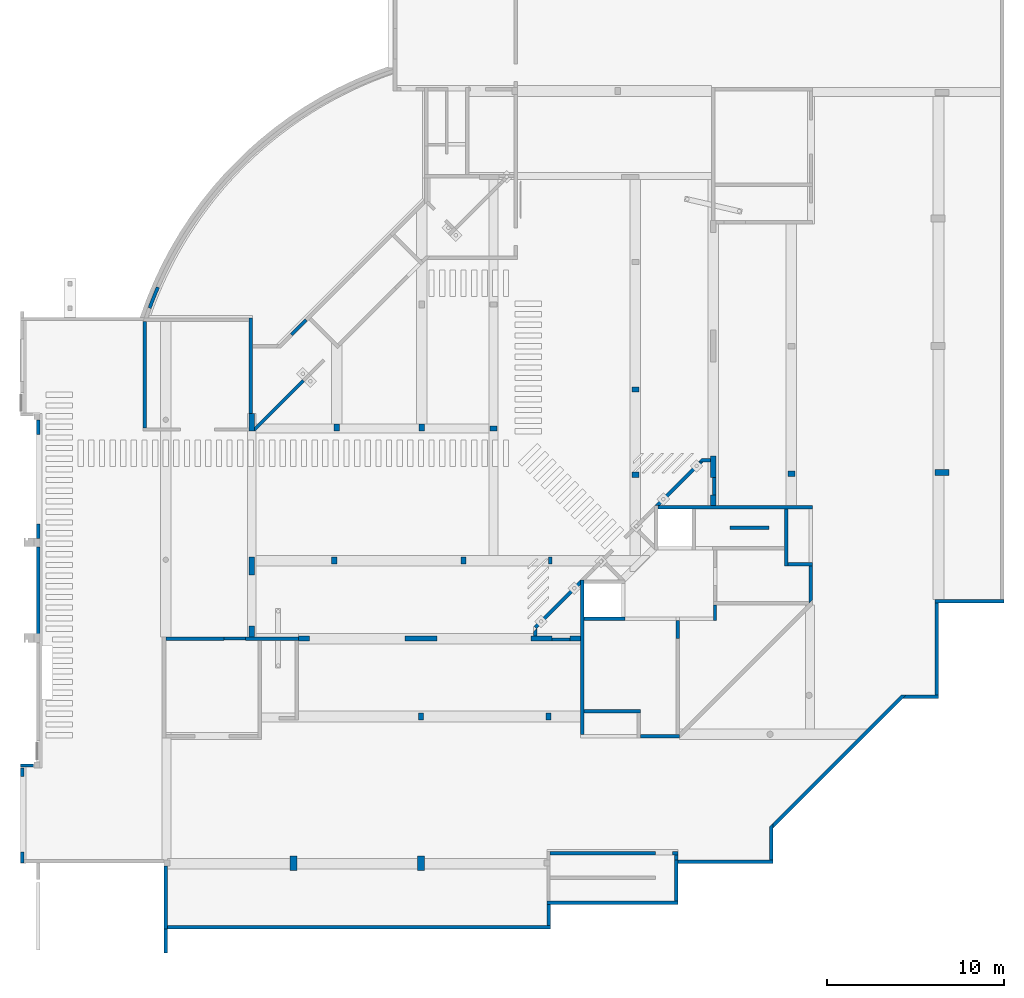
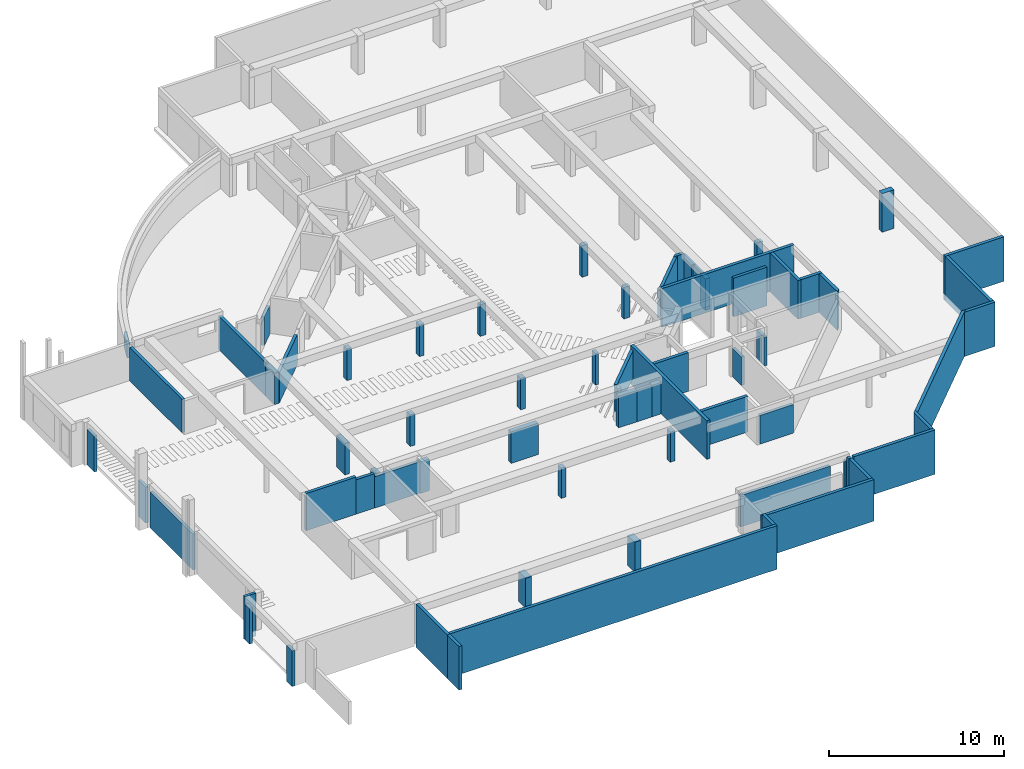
# One storey, part 4 of 12: 69 walls.
"""IFC4X3_ADD2 building model written with IfcOpenShell, lengths in millimetres."""

from ifc_helpers import new_model, si_unit, point, direction, frame, frame_2d, origin_with_axes, origin_2d_with_axis, place, context, subcontext, project, spatial, polyline, circle_curve, trimmed, segment, composite_curve, rectangle, outline, extrude, material, type_object, element, save


model = new_model("IFC4X3_ADD2")

# Units and contexts
model_context = context("Model", 3, precision=1e-05, world=origin_with_axes(), true_north=direction((0.0, 1.0)))
body_context = subcontext(model_context, "Body", "Model", "MODEL_VIEW")
ifc_project = project(units=[si_unit("LENGTHUNIT", "METRE", prefix="MILLI"), si_unit("AREAUNIT", "SQUARE_METRE"), si_unit("VOLUMEUNIT", "CUBIC_METRE"), si_unit("PLANEANGLEUNIT", "RADIAN"), si_unit("TIMEUNIT", "SECOND"), si_unit("MASSUNIT", "GRAM")], contexts=[model_context])

# Site, building, storey
site_placement = place(None, origin_with_axes())
site = spatial("IfcSite", under=ifc_project, at=site_placement, Name="Site", CompositionType="ELEMENT")
building_placement = place(site_placement, origin_with_axes())
building = spatial("IfcBuilding", under=site, at=building_placement, Name="IFC Building Story")
storey_placement = place(building_placement, frame((0.0, 0.0, -5940.0), z_axis=(0.0, 0.0, 1.0), x_axis=(1.0, 0.0, 0.0)))
storey = spatial("IfcBuildingStorey", under=building, at=storey_placement, Name="K20", Elevation=-5940.0)

# Walls
ifc_material_1 = material(Name="BB_Beton_Bestaand")
wall_type_1 = type_object("IfcWallType", Name="BB_Beton_Bestaand 200", PredefinedType="NOTDEFINED", material=ifc_material_1)
wall_1_placement = place(storey_placement, origin_with_axes())
element("IfcWall", 1, at=wall_1_placement, inside=storey, type_object=wall_type_1, Name="Basic Wall:BB_XX_Wand uit beton, 200 mm", ObjectType="Basic Wall:BB_XX_Wand uit beton, 200 mm", PredefinedType="SOLIDWALL", context=body_context, shape_type="SweptSolid", body=[
    extrude(rectangle(XDim=490.0000000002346, YDim=200.0000000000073, at=frame_2d((0.0, 0.0), x_axis=(0.0, 1.0))), frame((-51595.0, 5060.000000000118, -400.0), z_axis=(0.0, 0.0, 1.0), x_axis=(1.0, 0.0, 0.0)), (0.0, 0.0, 1.0), 2500.0),
])
wall_2_placement = place(storey_placement, origin_with_axes())
element("IfcWall", 2, at=wall_2_placement, inside=storey, type_object=wall_type_1, Name="Basic Wall:BB_XX_Wand uit beton, 200 mm", ObjectType="Basic Wall:BB_XX_Wand uit beton, 200 mm", PredefinedType="SOLIDWALL", context=body_context, shape_type="SweptSolid", body=[
    extrude(rectangle(XDim=3555.00000000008, YDim=200.0, at=frame_2d((0.0, 0.0), x_axis=(0.0, 1.0))), frame((-43495.0, -2022.49999999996, -400.0), z_axis=(0.0, 0.0, 1.0), x_axis=(1.0, 0.0, 0.0)), (0.0, 0.0, 1.0), 3050.0),
])
wall_3_placement = place(storey_placement, origin_with_axes())
element("IfcWall", 3, at=wall_3_placement, inside=storey, type_object=wall_type_1, Name="Basic Wall:BB_XX_Wand uit beton, 200 mm", ObjectType="Basic Wall:BB_XX_Wand uit beton, 200 mm", PredefinedType="SOLIDWALL", context=body_context, shape_type="SweptSolid", body=[
    extrude(rectangle(XDim=21595.0000000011, YDim=200.0, at=origin_2d_with_axis()), frame((-32597.50000000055, -3700.0, -400.0), z_axis=(0.0, 0.0, 1.0), x_axis=(1.0, 0.0, 0.0)), (0.0, 0.0, 1.0), 3050.0),
])
wall_4_placement = place(storey_placement, origin_with_axes())
element("IfcWall", 4, at=wall_4_placement, inside=storey, type_object=wall_type_1, Name="Basic Wall:BB_XX_Wand uit beton, 200 mm", ObjectType="Basic Wall:BB_XX_Wand uit beton, 200 mm", PredefinedType="SOLIDWALL", context=body_context, shape_type="SweptSolid", body=[
    extrude(rectangle(XDim=7399.999999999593, YDim=200.0, at=origin_2d_with_axis()), frame((-18299.9999999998, -2305.0, -400.0), z_axis=(0.0, 0.0, 1.0), x_axis=(1.0, 0.0, 0.0)), (0.0, 0.0, 1.0), 2900.0),
])
wall_5_placement = place(storey_placement, origin_with_axes())
element("IfcWall", 5, at=wall_5_placement, inside=storey, type_object=wall_type_1, Name="Basic Wall:BB_XX_Wand uit beton, 200 mm", ObjectType="Basic Wall:BB_XX_Wand uit beton, 200 mm", PredefinedType="SOLIDWALL", context=body_context, shape_type="SweptSolid", body=[
    extrude(rectangle(XDim=1195.00000000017, YDim=200.0, at=frame_2d((0.0, 0.0), x_axis=(0.0, 1.0))), frame((-21900.0, -3002.500000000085, -400.0), z_axis=(0.0, 0.0, 1.0), x_axis=(1.0, 0.0, 0.0)), (0.0, 0.0, 1.0), 3050.0),
])
wall_6_placement = place(storey_placement, origin_with_axes())
element("IfcWall", 6, at=wall_6_placement, inside=storey, type_object=wall_type_1, Name="Basic Wall:BB_XX_Wand uit beton, 200 mm", ObjectType="Basic Wall:BB_XX_Wand uit beton, 200 mm", PredefinedType="SOLIDWALL", context=body_context, shape_type="SweptSolid", body=[
    extrude(rectangle(XDim=5364.99999999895, YDim=200.0, at=origin_2d_with_axis()), frame((-11917.49999999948, -5.0, -400.0), z_axis=(0.0, 0.0, 1.0), x_axis=(1.0, 0.0, 0.0)), (0.0, 0.0, 1.0), 3100.0),
])
wall_7_placement = place(storey_placement, origin_with_axes())
element("IfcWall", 7, at=wall_7_placement, inside=storey, type_object=wall_type_1, Name="Basic Wall:BB_XX_Wand uit beton, 200 mm", ObjectType="Basic Wall:BB_XX_Wand uit beton, 200 mm", PredefinedType="SOLIDWALL", context=body_context, shape_type="SweptSolid", body=[
    extrude(rectangle(XDim=2299.99999999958, YDim=200.0000000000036, at=frame_2d((0.0, 0.0), x_axis=(0.0, 1.0))), frame((-14700.0, -1054.99999999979, -400.0), z_axis=(0.0, 0.0, 1.0), x_axis=(1.0, 0.0, 0.0)), (0.0, 0.0, 1.0), 2900.0),
])
wall_8_placement = place(storey_placement, origin_with_axes())
element("IfcWall", 8, at=wall_8_placement, inside=storey, type_object=wall_type_1, Name="Basic Wall:BB_XX_Wand uit beton, 200 mm", ObjectType="Basic Wall:BB_XX_Wand uit beton, 200 mm", PredefinedType="SOLIDWALL", context=body_context, shape_type="SweptSolid", body=[
    extrude(rectangle(XDim=300.0000000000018, YDim=200.0, at=origin_2d_with_axis()), frame((-14750.0, 495.0, 0.0), z_axis=(0.0, 0.0, 1.0), x_axis=(1.0, 0.0, 0.0)), (0.0, 0.0, 1.0), 2190.0),
])
wall_9_placement = place(storey_placement, origin_with_axes())
element("IfcWall", 9, at=wall_9_placement, inside=storey, type_object=wall_type_1, Name="Basic Wall:BB_XX_Wand uit beton, 200 mm", ObjectType="Basic Wall:BB_XX_Wand uit beton, 200 mm", PredefinedType="SOLIDWALL", context=body_context, shape_type="SweptSolid", body=[
    extrude(outline(polyline([(-865.4942314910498, 100.0), (965.4942314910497, 100.0), (965.4942314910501, -100.0), (-1065.49423149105, -100.0), (-865.4942314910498, 100.0)])), frame((-860.4942314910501, 9315.0, -400.0), z_axis=(0.0, 0.0, 1.0), x_axis=(1.0, 0.0, 0.0)), (0.0, 0.0, 1.0), 3100.0),
])
wall_10_placement = place(storey_placement, origin_with_axes())
element("IfcWall", 10, at=wall_10_placement, inside=storey, type_object=wall_type_1, Name="Basic Wall:BB_XX_Wand uit beton, 200 mm", ObjectType="Basic Wall:BB_XX_Wand uit beton, 200 mm", PredefinedType="SOLIDWALL", context=body_context, shape_type="SweptSolid", body=[
    extrude(outline(polyline([(-100.0, -996.9155877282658), (-100.0, 896.9155877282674), (100.0, 1096.915587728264), (100.0000000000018, -996.9155877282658), (-100.0, -996.9155877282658)])), frame((-9335.0, 1091.915587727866, -400.0), z_axis=(0.0, 0.0, 1.0), x_axis=(1.0, 0.0, 0.0)), (0.0, 0.0, 1.0), 3100.0),
])
wall_11_placement = place(storey_placement, origin_with_axes())
element("IfcWall", 11, at=wall_11_placement, inside=storey, type_object=wall_type_1, Name="Basic Wall:BB_XX_Wand uit beton, 200 mm", ObjectType="Basic Wall:BB_XX_Wand uit beton, 200 mm", PredefinedType="SOLIDWALL", context=body_context, shape_type="SweptSolid", body=[
    extrude(outline(polyline([(-3683.795090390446, -3542.37373415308), (3542.373734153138, 3683.79509039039), (3825.216446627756, 3683.795090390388), (-3683.795090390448, -3825.216446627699), (-3683.795090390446, -3542.37373415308)])), frame((-5551.204909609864, 5731.204909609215, -400.0), z_axis=(0.0, 0.0, 1.0), x_axis=(1.0, 0.0, 0.0)), (0.0, 0.0, 1.0), 3100.0),
])
wall_12_placement = place(storey_placement, origin_with_axes())
element("IfcWall", 12, at=wall_12_placement, inside=storey, type_object=wall_type_1, Name="Basic Wall:BB_XX_Wand uit beton, 200 mm", ObjectType="Basic Wall:BB_XX_Wand uit beton, 200 mm", PredefinedType="SOLIDWALL", context=body_context, shape_type="SweptSolid", body=[
    extrude(rectangle(XDim=3894.82543599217, YDim=199.9999999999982, at=origin_2d_with_axis()), frame((1852.412717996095, 14695.0, -400.0), z_axis=(0.0, 0.0, 1.0), x_axis=(1.0, 0.0, 0.0)), (0.0, 0.0, 1.0), 3100.0),
])
wall_13_placement = place(storey_placement, origin_with_axes())
element("IfcWall", 13, at=wall_13_placement, inside=storey, type_object=wall_type_1, Name="Basic Wall:BB_XX_Wand uit beton, 200 mm", ObjectType="Basic Wall:BB_XX_Wand uit beton, 200 mm", PredefinedType="SOLIDWALL", context=body_context, shape_type="SweptSolid", body=[
    extrude(rectangle(XDim=5180.000000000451, YDim=200.0, at=frame_2d((0.0, 0.0), x_axis=(0.0, 1.0))), frame((5.0, 12004.99999999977, -400.0), z_axis=(0.0, 0.0, 1.0), x_axis=(1.0, 0.0, 0.0)), (0.0, 0.0, 1.0), 3100.0),
])
wall_14_placement = place(storey_placement, origin_with_axes())
element("IfcWall", 14, at=wall_14_placement, inside=storey, type_object=wall_type_1, Name="Basic Wall:BB_XX_Wand uit beton, 200 mm", ObjectType="Basic Wall:BB_XX_Wand uit beton, 200 mm", PredefinedType="SOLIDWALL", context=body_context, shape_type="SweptSolid", body=[
    extrude(rectangle(XDim=5394.999999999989, YDim=200.0, at=frame_2d((0.0, 0.0), x_axis=(0.0, 1.0))), frame((-38700.0, 27997.5, 0.0), z_axis=(0.0, 0.0, 1.0), x_axis=(1.0, 0.0, 0.0)), (0.0, 0.0, 1.0), 2340.0),
])
wall_15_placement = place(storey_placement, origin_with_axes())
element("IfcWall", 15, at=wall_15_placement, inside=storey, type_object=wall_type_1, Name="Basic Wall:BB_XX_Wand uit beton, 200 mm", ObjectType="Basic Wall:BB_XX_Wand uit beton, 200 mm", PredefinedType="SOLIDWALL", context=body_context, shape_type="SweptSolid", body=[
    extrude(rectangle(XDim=400.0, YDim=200.0, at=frame_2d((0.0, 0.0), x_axis=(0.0, 1.0))), frame((-21800.0, 17000.0, 0.0), z_axis=(0.0, 0.0, 1.0), x_axis=(1.0, 0.0, 0.0)), (0.0, 0.0, 1.0), 2200.0),
])
wall_16_placement = place(storey_placement, origin_with_axes())
element("IfcWall", 16, at=wall_16_placement, inside=storey, type_object=wall_type_1, Name="Basic Wall:BB_XX_Wand uit beton, 200 mm", ObjectType="Basic Wall:BB_XX_Wand uit beton, 200 mm", PredefinedType="SOLIDWALL", context=body_context, shape_type="SweptSolid", body=[
    extrude(rectangle(XDim=8714.99999999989, YDim=200.0, at=frame_2d((0.0, 0.0), x_axis=(0.0, 1.0))), frame((-20000.0, 11557.49999999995, 0.0), z_axis=(0.0, 0.0, 1.0), x_axis=(1.0, 0.0, 0.0)), (0.0, 0.0, 1.0), 2700.0),
])
wall_17_placement = place(storey_placement, origin_with_axes())
element("IfcWall", 17, at=wall_17_placement, inside=storey, type_object=wall_type_1, Name="Basic Wall:BB_XX_Wand uit beton, 200 mm", ObjectType="Basic Wall:BB_XX_Wand uit beton, 200 mm", PredefinedType="SOLIDWALL", context=body_context, shape_type="SweptSolid", body=[
    extrude(rectangle(XDim=2299.999999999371, YDim=199.9999999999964, at=origin_2d_with_axis()), frame((-18750.00000000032, 13715.0, 0.0), z_axis=(0.0, 0.0, 1.0), x_axis=(1.0, 0.0, 0.0)), (0.0, 0.0, 1.0), 2700.0),
])
wall_18_placement = place(storey_placement, origin_with_axes())
element("IfcWall", 18, at=wall_18_placement, inside=storey, type_object=wall_type_1, Name="Basic Wall:BB_XX_Wand uit beton, 200 mm", ObjectType="Basic Wall:BB_XX_Wand uit beton, 200 mm", PredefinedType="SOLIDWALL", context=body_context, shape_type="SweptSolid", body=[
    extrude(rectangle(XDim=3000.000000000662, YDim=200.0000000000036, at=origin_2d_with_axis()), frame((-37499.99999999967, 12600.0014785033, 0.0), z_axis=(0.0, 0.0, 1.0), x_axis=(1.0, 0.0, 0.0)), (0.0, 0.0, 1.0), 2200.0),
])
wall_19_placement = place(storey_placement, origin_with_axes())
element("IfcWall", 19, at=wall_19_placement, inside=storey, type_object=wall_type_1, Name="Basic Wall:BB_XX_Wand uit beton, 200 mm", ObjectType="Basic Wall:BB_XX_Wand uit beton, 200 mm", PredefinedType="SOLIDWALL", context=body_context, shape_type="SweptSolid", body=[
    extrude(rectangle(XDim=3299.9999999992, YDim=199.9999999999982, at=origin_2d_with_axis()), frame((-41850.0000000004, 12600.0014785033, 0.0), z_axis=(0.0, 0.0, 1.0), x_axis=(1.0, 0.0, 0.0)), (0.0, 0.0, 1.0), 2600.0),
])
wall_20_placement = place(storey_placement, origin_with_axes())
element("IfcWall", 20, at=wall_20_placement, inside=storey, type_object=wall_type_1, Name="Basic Wall:BB_XX_Wand uit beton, 200 mm", ObjectType="Basic Wall:BB_XX_Wand uit beton, 200 mm", PredefinedType="SOLIDWALL", context=body_context, shape_type="SweptSolid", body=[
    extrude(rectangle(XDim=3200.000000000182, YDim=200.0, at=origin_2d_with_axis()), frame((-18299.99999999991, 8500.0, 0.0), z_axis=(0.0, 0.0, 1.0), x_axis=(1.0, 0.0, 0.0)), (0.0, 0.0, 1.0), 2500.0),
])
wall_21_placement = place(storey_placement, origin_with_axes())
element("IfcWall", 21, at=wall_21_placement, inside=storey, type_object=wall_type_1, Name="Basic Wall:BB_XX_Wand uit beton, 200 mm", ObjectType="Basic Wall:BB_XX_Wand uit beton, 200 mm", PredefinedType="SOLIDWALL", context=body_context, shape_type="SweptSolid", body=[
    extrude(rectangle(XDim=2199.999999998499, YDim=200.0, at=origin_2d_with_axis()), frame((-15600.00000000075, 7100.0, 0.0), z_axis=(0.0, 0.0, 1.0), x_axis=(1.0, 0.0, 0.0)), (0.0, 0.0, 1.0), 2000.0),
])
wall_22_placement = place(storey_placement, origin_with_axes())
element("IfcWall", 22, at=wall_22_placement, inside=storey, type_object=wall_type_1, Name="Basic Wall:BB_XX_Wand uit beton, 200 mm", ObjectType="Basic Wall:BB_XX_Wand uit beton, 200 mm", PredefinedType="SOLIDWALL", context=body_context, shape_type="SweptSolid", body=[
    extrude(rectangle(XDim=8714.99999999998, YDim=200.0, at=origin_2d_with_axis()), frame((-11357.50000000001, 20000.0, 0.0), z_axis=(0.0, 0.0, 1.0), x_axis=(1.0, 0.0, 0.0)), (0.0, 0.0, 1.0), 2700.0),
])
wall_23_placement = place(storey_placement, origin_with_axes())
element("IfcWall", 23, at=wall_23_placement, inside=storey, type_object=wall_type_1, Name="Basic Wall:BB_XX_Wand uit beton, 200 mm", ObjectType="Basic Wall:BB_XX_Wand uit beton, 200 mm", PredefinedType="SOLIDWALL", context=body_context, shape_type="SweptSolid", body=[
    extrude(rectangle(XDim=3199.999999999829, YDim=200.0, at=frame_2d((0.0, 0.0), x_axis=(0.0, 1.0))), frame((-8500.0, 18300.00000000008, 0.0), z_axis=(0.0, 0.0, 1.0), x_axis=(1.0, 0.0, 0.0)), (0.0, 0.0, 1.0), 2700.0),
])
wall_24_placement = place(storey_placement, origin_with_axes())
element("IfcWall", 24, at=wall_24_placement, inside=storey, type_object=wall_type_1, Name="Basic Wall:BB_XX_Wand uit beton, 200 mm", ObjectType="Basic Wall:BB_XX_Wand uit beton, 200 mm", PredefinedType="SOLIDWALL", context=body_context, shape_type="SweptSolid", body=[
    extrude(rectangle(XDim=1399.99999999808, YDim=200.0, at=origin_2d_with_axis()), frame((-7700.00000000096, 16800.0, 0.0), z_axis=(0.0, 0.0, 1.0), x_axis=(1.0, 0.0, 0.0)), (0.0, 0.0, 1.0), 2700.0),
])
wall_25_placement = place(storey_placement, origin_with_axes())
element("IfcWall", 25, at=wall_25_placement, inside=storey, type_object=wall_type_1, Name="Basic Wall:BB_XX_Wand uit beton, 200 mm", ObjectType="Basic Wall:BB_XX_Wand uit beton, 200 mm", PredefinedType="SOLIDWALL", context=body_context, shape_type="SweptSolid", body=[
    extrude(outline(polyline([(-100.0, -1108.578643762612), (-100.0, 1008.578643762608), (100.0, 1008.578643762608), (99.99999999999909, -908.578643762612), (-100.0, -1108.578643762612)])), frame((-7100.0, 15691.42135623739, 0.0), z_axis=(0.0, 0.0, 1.0), x_axis=(1.0, 0.0, 0.0)), (0.0, 0.0, 1.0), 2700.0),
])
wall_26_placement = place(storey_placement, origin_with_axes())
element("IfcWall", 26, at=wall_26_placement, inside=storey, type_object=wall_type_1, Name="Basic Wall:BB_XX_Wand uit beton, 200 mm", ObjectType="Basic Wall:BB_XX_Wand uit beton, 200 mm", PredefinedType="SOLIDWALL", context=body_context, shape_type="SweptSolid", body=[
    extrude(rectangle(XDim=5934.99999999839, YDim=200.0, at=origin_2d_with_axis()), frame((-18837.5000000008, 495.0, 0.0), z_axis=(0.0, 0.0, 1.0), x_axis=(1.0, 0.0, 0.0)), (0.0, 0.0, 1.0), 2190.0),
])
wall_27_placement = place(storey_placement, origin_with_axes())
element("IfcWall", 27, at=wall_27_placement, inside=storey, type_object=wall_type_1, Name="Basic Wall:BB_XX_Wand uit beton, 200 mm", ObjectType="Basic Wall:BB_XX_Wand uit beton, 200 mm", PredefinedType="SOLIDWALL", context=body_context, shape_type="SweptSolid", body=[
    extrude(rectangle(XDim=634.999999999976, YDim=200.0000000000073, at=frame_2d((0.0, 0.0), x_axis=(0.0, 1.0))), frame((-51595.0, 247.499999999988, -400.0), z_axis=(0.0, 0.0, 1.0), x_axis=(1.0, 0.0, 0.0)), (0.0, 0.0, 1.0), 2500.0),
])
wall_28_placement = place(storey_placement, origin_with_axes())
element("IfcWall", 28, at=wall_28_placement, inside=storey, type_object=wall_type_1, Name="Basic Wall:BB_XX_Wand uit beton, 200 mm", ObjectType="Basic Wall:BB_XX_Wand uit beton, 200 mm", PredefinedType="SOLIDWALL", context=body_context, shape_type="SweptSolid", body=[
    extrude(rectangle(XDim=300.000000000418, YDim=199.9999999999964, at=frame_2d((0.0, 0.0), x_axis=(0.0, 1.0))), frame((-14700.0, 244.999999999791, 0.0), z_axis=(0.0, 0.0, 1.0), x_axis=(1.0, 0.0, 0.0)), (0.0, 0.0, 1.0), 2450.0),
])
wall_29_placement = place(storey_placement, origin_with_axes())
element("IfcWall", 29, at=wall_29_placement, inside=storey, type_object=wall_type_1, Name="Basic Wall:BB_XX_Wand uit beton, 200 mm", ObjectType="Basic Wall:BB_XX_Wand uit beton, 200 mm", PredefinedType="SOLIDWALL", context=body_context, shape_type="SweptSolid", body=[
    extrude(outline(polyline([(-197.3241687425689, 100.0), (297.3241687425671, 100.0), (297.3241687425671, -100.0), (-397.3241687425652, -99.99999999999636), (-197.3241687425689, 100.0)])), frame((-13047.32416874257, 22660.0, 600.0), z_axis=(0.0, 0.0, 1.0), x_axis=(1.0, 0.0, 0.0)), (0.0, 0.0, 1.0), 1890.00000002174),
])
wall_type_2 = type_object("IfcWallType", Name="BB_Beton_Bestaand 190", PredefinedType="NOTDEFINED", material=ifc_material_1)
wall_30_placement = place(storey_placement, origin_with_axes())
element("IfcWall", 30, at=wall_30_placement, inside=storey, type_object=wall_type_2, Name="Basic Wall:BB_XX_Wand uit beton, 190 mm", ObjectType="Basic Wall:BB_XX_Wand uit beton, 190 mm", PredefinedType="SOLIDWALL", context=body_context, shape_type="SweptSolid", body=[
    extrude(rectangle(XDim=4910.000000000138, YDim=189.9999999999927, at=frame_2d((0.0, 0.0), x_axis=(0.0, 1.0))), frame((-50700.0, 15300.00000000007, -400.0), z_axis=(0.0, 0.0, 1.0), x_axis=(1.0, 0.0, 0.0)), (0.0, 0.0, 1.0), 2500.0),
])
wall_31_placement = place(storey_placement, origin_with_axes())
element("IfcWall", 31, at=wall_31_placement, inside=storey, type_object=wall_type_2, Name="Basic Wall:BB_XX_Wand uit beton, 190 mm", ObjectType="Basic Wall:BB_XX_Wand uit beton, 190 mm", PredefinedType="SOLIDWALL", context=body_context, shape_type="SweptSolid", body=[
    extrude(rectangle(XDim=830.0, YDim=189.9999999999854, at=frame_2d((0.0, 0.0), x_axis=(0.0, 1.0))), frame((-50700.0, 18660.0, -400.0), z_axis=(0.0, 0.0, 1.0), x_axis=(1.0, 0.0, 0.0)), (0.0, 0.0, 1.0), 2500.0),
])
wall_32_placement = place(storey_placement, origin_with_axes())
element("IfcWall", 32, at=wall_32_placement, inside=storey, type_object=wall_type_2, Name="Basic Wall:BB_XX_Wand uit beton, 190 mm", ObjectType="Basic Wall:BB_XX_Wand uit beton, 190 mm", PredefinedType="SOLIDWALL", context=body_context, shape_type="SweptSolid", body=[
    extrude(rectangle(XDim=819.9999999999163, YDim=189.9999999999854, at=frame_2d((0.0, 0.0), x_axis=(0.0, 1.0))), frame((-50700.0, 24534.99999999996, -400.0), z_axis=(0.0, 0.0, 1.0), x_axis=(1.0, 0.0, 0.0)), (0.0, 0.0, 1.0), 2500.0),
])
wall_33_placement = place(storey_placement, origin_with_axes())
element("IfcWall", 33, at=wall_33_placement, inside=storey, type_object=wall_type_2, Name="Basic Wall:BB_XX_Wand uit beton, 190 mm", ObjectType="Basic Wall:BB_XX_Wand uit beton, 190 mm", PredefinedType="SOLIDWALL", context=body_context, shape_type="SweptSolid", body=[
    extrude(rectangle(XDim=1350.72252723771, YDim=189.9999999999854, at=frame_2d((0.0, 0.0), x_axis=(0.0, 1.0))), frame((-43500.0, -4475.361263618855, -400.0), z_axis=(0.0, 0.0, 1.0), x_axis=(1.0, 0.0, 0.0)), (0.0, 0.0, 1.0), 3050.0),
])
wall_34_placement = place(storey_placement, origin_with_axes())
element("IfcWall", 34, at=wall_34_placement, inside=storey, type_object=wall_type_2, Name="Basic Wall:BB_XX_Wand uit beton, 190 mm", ObjectType="Basic Wall:BB_XX_Wand uit beton, 190 mm", PredefinedType="SOLIDWALL", context=body_context, shape_type="SweptSolid", body=[
    extrude(outline(polyline([(1274.926317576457, 1140.576029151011), (-1207.751173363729, -1342.101461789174), (-1342.101461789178, -1207.751173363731), (1274.926317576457, 1409.276606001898), (1274.926317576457, 1140.576029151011)])), frame((-21374.92631757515, 14495.37173148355, 600.0), z_axis=(0.0, 0.0, 1.0), x_axis=(1.0, 0.0, 0.0)), (0.0, 0.0, 1.0), 1890.00000002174),
])
wall_35_placement = place(storey_placement, origin_with_axes())
element("IfcWall", 35, at=wall_35_placement, inside=storey, type_object=wall_type_2, Name="Basic Wall:BB_XX_Wand uit beton, 190 mm", ObjectType="Basic Wall:BB_XX_Wand uit beton, 190 mm", PredefinedType="SOLIDWALL", context=body_context, shape_type="SweptSolid", body=[
    extrude(outline(polyline([(-1364.350288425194, -1229.999999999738), (1095.649711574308, 1229.999999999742), (1364.350288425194, 1229.999999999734), (-1095.649711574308, -1229.999999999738), (-1364.350288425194, -1229.999999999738)])), frame((-14540.29804905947, 21329.99999999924, 600.0), z_axis=(0.0, 0.0, 1.0), x_axis=(1.0, 0.0, 0.0)), (0.0, 0.0, 1.0), 1890.00000002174),
])
wall_type_3 = type_object("IfcWallType", Name="BB_Beton_Bestaand 0", PredefinedType="NOTDEFINED", material=ifc_material_1)
wall_36_placement = place(storey_placement, origin_with_axes())
element("IfcWall", 36, at=wall_36_placement, inside=storey, type_object=wall_type_3, Name="Basic Wall:BB_XX_Wand uit beton, 200 mm", ObjectType="Basic Wall:BB_XX_Wand uit beton, 200 mm", PredefinedType="SOLIDWALL", context=body_context, shape_type="SweptSolid", body=[
    extrude(outline(polyline([(100.0, 265.5475627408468), (100.0, -165.5475627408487), (-100.0, -165.5475627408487), (-100.0, 65.54756274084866), (100.0, 265.5475627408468)])), frame((-22649.8526351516, 12920.54756274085, 600.0), z_axis=(0.0, 0.0, 1.0), x_axis=(1.0, 0.0, 0.0)), (0.0, 0.0, 1.0), 1890.00000002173),
])
wall_type_4 = type_object("IfcWallType", Name="BB_Beton_Bestaand 170", PredefinedType="NOTDEFINED", material=ifc_material_1)
wall_37_placement = place(storey_placement, origin_with_axes())
element("IfcWall", 37, at=wall_37_placement, inside=storey, type_object=wall_type_4, Name="Basic Wall:BB_XX_Wand uit beton, 170 mm", ObjectType="Basic Wall:BB_XX_Wand uit beton, 170 mm", PredefinedType="SOLIDWALL", context=body_context, shape_type="SweptSolid", body=[
    extrude(rectangle(XDim=738.2599484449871, YDim=170.0, at=frame_2d((0.0, 0.0), x_axis=(0.9999999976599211, -6.841168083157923e-05))), frame((-51325.8758416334, 5424.974747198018, -400.0), z_axis=(0.0, 0.0, 1.0), x_axis=(1.0, 0.0, 0.0)), (0.0, 0.0, 1.0), 3000.0),
])
wall_type_5 = type_object("IfcWallType", Name="BB_Beton_Bestaand 400", PredefinedType="NOTDEFINED", material=ifc_material_1)
wall_38_placement = place(storey_placement, origin_with_axes())
element("IfcWall", 38, at=wall_38_placement, inside=storey, type_object=wall_type_5, Name="Basic Wall:BB_XX_Wand uit beton, 400 mm", ObjectType="Basic Wall:BB_XX_Wand uit beton, 400 mm", PredefinedType="SOLIDWALL", context=body_context, shape_type="SweptSolid", body=[
    extrude(rectangle(XDim=799.999999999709, YDim=400.0, at=frame_2d((0.0, 0.0), x_axis=(0.0, 1.0))), frame((-36300.0, -74.99999999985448, 0.0), z_axis=(0.0, 0.0, 1.0), x_axis=(1.0, 0.0, 0.0)), (0.0, 0.0, 1.0), 2100.0),
])
wall_39_placement = place(storey_placement, origin_with_axes())
element("IfcWall", 39, at=wall_39_placement, inside=storey, type_object=wall_type_5, Name="Basic Wall:BB_XX_Wand uit beton, 400 mm", ObjectType="Basic Wall:BB_XX_Wand uit beton, 400 mm", PredefinedType="SOLIDWALL", context=body_context, shape_type="SweptSolid", body=[
    extrude(rectangle(XDim=817.500000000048, YDim=400.0000000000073, at=frame_2d((0.0, 0.0), x_axis=(0.0, 1.0))), frame((-29100.0, -83.75000000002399, 0.0), z_axis=(0.0, 0.0, 1.0), x_axis=(1.0, 0.0, 0.0)), (0.0, 0.0, 1.0), 2100.0),
])
wall_type_6 = type_object("IfcWallType", Name="BB_Beton_Bestaand 300", PredefinedType="NOTDEFINED", material=ifc_material_1)
wall_40_placement = place(storey_placement, origin_with_axes())
element("IfcWall", 40, at=wall_40_placement, inside=storey, type_object=wall_type_6, Name="Basic Wall:BB_XX_Wand uit beton, 300 mm", ObjectType="Basic Wall:BB_XX_Wand uit beton, 300 mm", PredefinedType="SOLIDWALL", context=body_context, shape_type="SweptSolid", body=[
    extrude(rectangle(XDim=400.0, YDim=300.0, at=frame_2d((0.0, 0.0), x_axis=(0.0, 1.0))), frame((-29100.0, 8200.0, 0.0), z_axis=(0.0, 0.0, 1.0), x_axis=(1.0, 0.0, 0.0)), (0.0, 0.0, 1.0), 2100.0),
])
wall_41_placement = place(storey_placement, origin_with_axes())
element("IfcWall", 41, at=wall_41_placement, inside=storey, type_object=wall_type_6, Name="Basic Wall:BB_XX_Wand uit beton, 300 mm", ObjectType="Basic Wall:BB_XX_Wand uit beton, 300 mm", PredefinedType="SOLIDWALL", context=body_context, shape_type="SweptSolid", body=[
    extrude(rectangle(XDim=400.0, YDim=300.0, at=frame_2d((0.0, 0.0), x_axis=(0.0, 1.0))), frame((-21900.0, 8200.0, 0.0), z_axis=(0.0, 0.0, 1.0), x_axis=(1.0, 0.0, 0.0)), (0.0, 0.0, 1.0), 2100.0),
])
wall_42_placement = place(storey_placement, origin_with_axes())
element("IfcWall", 42, at=wall_42_placement, inside=storey, type_object=wall_type_6, Name="Basic Wall:BB_XX_Wand uit beton, 300 mm", ObjectType="Basic Wall:BB_XX_Wand uit beton, 300 mm", PredefinedType="SOLIDWALL", context=body_context, shape_type="SweptSolid", body=[
    extrude(rectangle(XDim=400.0, YDim=300.0, at=frame_2d((0.0, 0.0), x_axis=(0.0, 1.0))), frame((-26700.0, 17000.0, 0.0), z_axis=(0.0, 0.0, 1.0), x_axis=(1.0, 0.0, 0.0)), (0.0, 0.0, 1.0), 2200.0),
])
wall_43_placement = place(storey_placement, origin_with_axes())
element("IfcWall", 43, at=wall_43_placement, inside=storey, type_object=wall_type_6, Name="Basic Wall:BB_XX_Wand uit beton, 300 mm", ObjectType="Basic Wall:BB_XX_Wand uit beton, 300 mm", PredefinedType="SOLIDWALL", context=body_context, shape_type="SweptSolid", body=[
    extrude(rectangle(XDim=400.0, YDim=300.0, at=frame_2d((0.0, 0.0), x_axis=(0.0, 1.0))), frame((-34000.0, 17000.0, 0.0), z_axis=(0.0, 0.0, 1.0), x_axis=(1.0, 0.0, 0.0)), (0.0, 0.0, 1.0), 2200.0),
])
wall_44_placement = place(storey_placement, origin_with_axes())
element("IfcWall", 44, at=wall_44_placement, inside=storey, type_object=wall_type_6, Name="Basic Wall:BB_XX_Wand uit beton, 300 mm", ObjectType="Basic Wall:BB_XX_Wand uit beton, 300 mm", PredefinedType="SOLIDWALL", context=body_context, shape_type="SweptSolid", body=[
    extrude(rectangle(XDim=1000.0, YDim=300.0, at=frame_2d((0.0, 0.0), x_axis=(0.0, 1.0))), frame((-38650.0, 16700.0, 0.0), z_axis=(0.0, 0.0, 1.0), x_axis=(1.0, 0.0, 0.0)), (0.0, 0.0, 1.0), 2200.0),
])
wall_45_placement = place(storey_placement, origin_with_axes())
element("IfcWall", 45, at=wall_45_placement, inside=storey, type_object=wall_type_6, Name="Basic Wall:BB_XX_Wand uit beton, 300 mm", ObjectType="Basic Wall:BB_XX_Wand uit beton, 300 mm", PredefinedType="SOLIDWALL", context=body_context, shape_type="SweptSolid", body=[
    extrude(rectangle(XDim=1000.0, YDim=300.0, at=frame_2d((0.0, 0.0), x_axis=(0.0, 1.0))), frame((-38650.0, 24800.0, 0.0), z_axis=(0.0, 0.0, 1.0), x_axis=(1.0, 0.0, 0.0)), (0.0, 0.0, 1.0), 2200.0),
])
wall_46_placement = place(storey_placement, origin_with_axes())
element("IfcWall", 46, at=wall_46_placement, inside=storey, type_object=wall_type_6, Name="Basic Wall:BB_XX_Wand uit beton, 300 mm", ObjectType="Basic Wall:BB_XX_Wand uit beton, 300 mm", PredefinedType="SOLIDWALL", context=body_context, shape_type="SweptSolid", body=[
    extrude(rectangle(XDim=400.0000000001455, YDim=300.0, at=frame_2d((0.0, 0.0), x_axis=(0.0, 1.0))), frame((-33850.0, 24499.99999999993, 0.0), z_axis=(0.0, 0.0, 1.0), x_axis=(1.0, 0.0, 0.0)), (0.0, 0.0, 1.0), 2200.0),
])
wall_47_placement = place(storey_placement, origin_with_axes())
element("IfcWall", 47, at=wall_47_placement, inside=storey, type_object=wall_type_6, Name="Basic Wall:BB_XX_Wand uit beton, 300 mm", ObjectType="Basic Wall:BB_XX_Wand uit beton, 300 mm", PredefinedType="SOLIDWALL", context=body_context, shape_type="SweptSolid", body=[
    extrude(rectangle(XDim=400.0, YDim=300.0, at=frame_2d((0.0, 0.0), x_axis=(0.0, 1.0))), frame((-29050.0, 24500.0, 0.0), z_axis=(0.0, 0.0, 1.0), x_axis=(1.0, 0.0, 0.0)), (0.0, 0.0, 1.0), 2200.0),
])
wall_48_placement = place(storey_placement, origin_with_axes())
element("IfcWall", 48, at=wall_48_placement, inside=storey, type_object=wall_type_6, Name="Basic Wall:BB_XX_Wand uit beton, 300 mm", ObjectType="Basic Wall:BB_XX_Wand uit beton, 300 mm", PredefinedType="SOLIDWALL", context=body_context, shape_type="SweptSolid", body=[
    extrude(rectangle(XDim=399.9999999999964, YDim=300.0, at=origin_2d_with_axis()), frame((-25000.0, 24450.0, 0.0), z_axis=(0.0, 0.0, 1.0), x_axis=(1.0, 0.0, 0.0)), (0.0, 0.0, 1.0), 2200.0),
])
wall_49_placement = place(storey_placement, origin_with_axes())
element("IfcWall", 49, at=wall_49_placement, inside=storey, type_object=wall_type_6, Name="Basic Wall:BB_XX_Wand uit beton, 300 mm", ObjectType="Basic Wall:BB_XX_Wand uit beton, 300 mm", PredefinedType="SOLIDWALL", context=body_context, shape_type="SweptSolid", body=[
    extrude(rectangle(XDim=400.0, YDim=300.0, at=origin_2d_with_axis()), frame((-17000.0, 26650.0, 0.0), z_axis=(0.0, 0.0, 1.0), x_axis=(1.0, 0.0, 0.0)), (0.0, 0.0, 1.0), 2200.0),
])
wall_50_placement = place(storey_placement, origin_with_axes())
element("IfcWall", 50, at=wall_50_placement, inside=storey, type_object=wall_type_6, Name="Basic Wall:BB_XX_Wand uit beton, 300 mm", ObjectType="Basic Wall:BB_XX_Wand uit beton, 300 mm", PredefinedType="SOLIDWALL", context=body_context, shape_type="SweptSolid", body=[
    extrude(rectangle(XDim=1200.0, YDim=300.0000000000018, at=frame_2d((0.0, 0.0), x_axis=(0.0, 1.0))), frame((-12600.0, 22300.0, 0.0), z_axis=(0.0, 0.0, 1.0), x_axis=(1.0, 0.0, 0.0)), (0.0, 0.0, 1.0), 2200.0),
])
wall_51_placement = place(storey_placement, origin_with_axes())
element("IfcWall", 51, at=wall_51_placement, inside=storey, type_object=wall_type_6, Name="Basic Wall:BB_XX_Wand uit beton, 300 mm", ObjectType="Basic Wall:BB_XX_Wand uit beton, 300 mm", PredefinedType="SOLIDWALL", context=body_context, shape_type="SweptSolid", body=[
    extrude(rectangle(XDim=590.0000000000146, YDim=300.0000000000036, at=frame_2d((0.0, 0.0), x_axis=(0.0, 1.0))), frame((-12600.0, 20394.99999999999, 0.0), z_axis=(0.0, 0.0, 1.0), x_axis=(1.0, 0.0, 0.0)), (0.0, 0.0, 1.0), 2200.0),
])
wall_52_placement = place(storey_placement, origin_with_axes())
element("IfcWall", 52, at=wall_52_placement, inside=storey, type_object=wall_type_6, Name="Basic Wall:BB_XX_Wand uit beton, 300 mm", ObjectType="Basic Wall:BB_XX_Wand uit beton, 300 mm", PredefinedType="SOLIDWALL", context=body_context, shape_type="SweptSolid", body=[
    extrude(rectangle(XDim=400.0, YDim=300.0, at=origin_2d_with_axis()), frame((-8200.0, 21900.0, 0.0), z_axis=(0.0, 0.0, 1.0), x_axis=(1.0, 0.0, 0.0)), (0.0, 0.0, 1.0), 2200.0),
])
wall_53_placement = place(storey_placement, origin_with_axes())
element("IfcWall", 53, at=wall_53_placement, inside=storey, type_object=wall_type_6, Name="Basic Wall:BB_XX_Wand uit beton, 300 mm", ObjectType="Basic Wall:BB_XX_Wand uit beton, 300 mm", PredefinedType="SOLIDWALL", context=body_context, shape_type="SweptSolid", body=[
    extrude(rectangle(XDim=400.0, YDim=300.0, at=origin_2d_with_axis()), frame((-17000.0, 21850.0, 0.0), z_axis=(0.0, 0.0, 1.0), x_axis=(1.0, 0.0, 0.0)), (0.0, 0.0, 1.0), 2200.0),
])
wall_54_placement = place(storey_placement, origin_with_axes())
element("IfcWall", 54, at=wall_54_placement, inside=storey, type_object=wall_type_6, Name="Basic Wall:BB_XX_Wand uit beton, 300 mm", ObjectType="Basic Wall:BB_XX_Wand uit beton, 300 mm", PredefinedType="SOLIDWALL", context=body_context, shape_type="SweptSolid", body=[
    extrude(rectangle(XDim=585.0000000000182, YDim=300.0000000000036, at=origin_2d_with_axis()), frame((-20392.50000000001, 12600.0, 0.0), z_axis=(0.0, 0.0, 1.0), x_axis=(1.0, 0.0, 0.0)), (0.0, 0.0, 1.0), 2200.0),
])
wall_55_placement = place(storey_placement, origin_with_axes())
element("IfcWall", 55, at=wall_55_placement, inside=storey, type_object=wall_type_6, Name="Basic Wall:BB_XX_Wand uit beton, 300 mm", ObjectType="Basic Wall:BB_XX_Wand uit beton, 300 mm", PredefinedType="SOLIDWALL", context=body_context, shape_type="SweptSolid", body=[
    extrude(rectangle(XDim=1200.0, YDim=300.0000000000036, at=origin_2d_with_axis()), frame((-22295.0, 12600.0, 0.0), z_axis=(0.0, 0.0, 1.0), x_axis=(1.0, 0.0, 0.0)), (0.0, 0.0, 1.0), 2200.0),
])
wall_56_placement = place(storey_placement, origin_with_axes())
element("IfcWall", 56, at=wall_56_placement, inside=storey, type_object=wall_type_6, Name="Basic Wall:BB_XX_Wand uit beton, 300 mm", ObjectType="Basic Wall:BB_XX_Wand uit beton, 300 mm", PredefinedType="SOLIDWALL", context=body_context, shape_type="SweptSolid", body=[
    extrude(rectangle(XDim=1800.0, YDim=300.0000000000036, at=origin_2d_with_axis()), frame((-29095.0, 12600.0, 0.0), z_axis=(0.0, 0.0, 1.0), x_axis=(1.0, 0.0, 0.0)), (0.0, 0.0, 1.0), 2200.0),
])
wall_57_placement = place(storey_placement, origin_with_axes())
element("IfcWall", 57, at=wall_57_placement, inside=storey, type_object=wall_type_6, Name="Basic Wall:BB_XX_Wand uit beton, 300 mm", ObjectType="Basic Wall:BB_XX_Wand uit beton, 300 mm", PredefinedType="SOLIDWALL", context=body_context, shape_type="SweptSolid", body=[
    extrude(rectangle(XDim=600.000000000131, YDim=300.0000000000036, at=origin_2d_with_axis()), frame((-35700.00000000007, 12600.0, 0.0), z_axis=(0.0, 0.0, 1.0), x_axis=(1.0, 0.0, 0.0)), (0.0, 0.0, 1.0), 2200.0),
])
wall_58_placement = place(storey_placement, origin_with_axes())
element("IfcWall", 58, at=wall_58_placement, inside=storey, type_object=wall_type_6, Name="Basic Wall:BB_XX_Wand uit beton, 300 mm", ObjectType="Basic Wall:BB_XX_Wand uit beton, 300 mm", PredefinedType="SOLIDWALL", context=body_context, shape_type="SweptSolid", body=[
    extrude(rectangle(XDim=599.9985214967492, YDim=300.0, at=frame_2d((0.0, 0.0), x_axis=(0.0, 1.0))), frame((-38650.0, 13000.00073925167, 0.0), z_axis=(0.0, 0.0, 1.0), x_axis=(1.0, 0.0, 0.0)), (0.0, 0.0, 1.0), 2226.50389048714),
])
wall_type_7 = type_object("IfcWallType", Name="BB_Beton_Bestaand 340", PredefinedType="NOTDEFINED", material=ifc_material_1)
wall_59_placement = place(storey_placement, origin_with_axes())
element("IfcWall", 59, at=wall_59_placement, inside=storey, type_object=wall_type_7, Name="Basic Wall:BB_XX_Wand uit beton, 340 mm", ObjectType="Basic Wall:BB_XX_Wand uit beton, 340 mm", PredefinedType="SOLIDWALL", context=body_context, shape_type="SweptSolid", body=[
    extrude(rectangle(XDim=800.0, YDim=340.0, at=origin_2d_with_axis()), frame((305.0, 21975.0, 0.0), z_axis=(0.0, 0.0, 1.0), x_axis=(1.0, 0.0, 0.0)), (0.0, 0.0, 1.0), 2700.0),
])
ifc_material_2 = material(Name="BB_Metselwerk_Bestaand")
wall_type_8 = type_object("IfcWallType", Name="BB_Metselwerk_Bestaand 190", PredefinedType="NOTDEFINED", material=ifc_material_2)
wall_60_placement = place(storey_placement, origin_with_axes())
element("IfcWall", 60, at=wall_60_placement, inside=storey, type_object=wall_type_8, Name="Basic Wall:BB_XX_Wand uit metselwerk, 190 mm", ObjectType="Basic Wall:BB_XX_Wand uit metselwerk, 190 mm", PredefinedType="SOLIDWALL", context=body_context, shape_type="SweptSolid", body=[
    extrude(rectangle(XDim=875.0000000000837, YDim=190.0, at=frame_2d((0.0, 0.0), x_axis=(0.0, 1.0))), frame((-12505.0, 14062.50000000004, 0.0), z_axis=(0.0, 0.0, 1.0), x_axis=(1.0, 0.0, 0.0)), (0.0, 0.0, 1.0), 2000.0),
])
wall_61_placement = place(storey_placement, origin_with_axes())
element("IfcWall", 61, at=wall_61_placement, inside=storey, type_object=wall_type_8, Name="Basic Wall:BB_XX_Wand uit metselwerk, 190 mm", ObjectType="Basic Wall:BB_XX_Wand uit metselwerk, 190 mm", PredefinedType="SOLIDWALL", context=body_context, shape_type="SweptSolid", body=[
    extrude(rectangle(XDim=2210.00000000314, YDim=190.0, at=origin_2d_with_axis()), frame((-10554.99999999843, 18850.0, 0.0), z_axis=(0.0, 0.0, 1.0), x_axis=(1.0, 0.0, 0.0)), (0.0, 0.0, 1.0), 2700.0),
])
ifc_material_3 = material(Name="BB_Metselwerk_Betonsteen")
wall_type_9 = type_object("IfcWallType", Name="BB_Metselwerk_Betonsteen 190", PredefinedType="NOTDEFINED", material=ifc_material_3)
wall_62_placement = place(storey_placement, origin_with_axes())
element("IfcWall", 62, at=wall_62_placement, inside=storey, type_object=wall_type_9, Name="Basic Wall:BB_03.09.24#05_Wand uit metselwerk_EI60, 190 mm", ObjectType="Basic Wall:BB_03.09.24#05_Wand uit metselwerk_EI60, 190 mm", PredefinedType="SOLIDWALL", context=body_context, shape_type="SweptSolid", body=[
    extrude(rectangle(XDim=1169.999999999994, YDim=190.0000000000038, at=frame_2d((0.0, 0.0), x_axis=(0.7071067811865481, 0.7071067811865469))), frame((-35994.02326625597, 30167.46338927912, 0.0), z_axis=(0.0, 0.0, 1.0), x_axis=(1.0, 0.0, 0.0)), (0.0, 0.0, 1.0), 2010.0),
])
wall_63_placement = place(storey_placement, origin_with_axes())
element("IfcWall", 63, at=wall_63_placement, inside=storey, type_object=wall_type_9, Name="Basic Wall:BB_03.09.24#05_Wand uit metselwerk_EI60, 190 mm", ObjectType="Basic Wall:BB_03.09.24#05_Wand uit metselwerk_EI60, 190 mm", PredefinedType="SOLIDWALL", context=body_context, shape_type="SweptSolid", body=[
    extrude(rectangle(XDim=6015.000000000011, YDim=189.9999999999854, at=frame_2d((0.0, 0.0), x_axis=(0.0, 1.0))), frame((-44680.0, 27497.5, 0.0), z_axis=(0.0, 0.0, 1.0), x_axis=(1.0, 0.0, 0.0)), (0.0, 0.0, 1.0), 2340.0),
])
wall_64_placement = place(storey_placement, origin_with_axes())
element("IfcWall", 64, at=wall_64_placement, inside=storey, type_object=wall_type_9, Name="Basic Wall:BB_03.09.24#05_Wand uit metselwerk_EI60, 190 mm", ObjectType="Basic Wall:BB_03.09.24#05_Wand uit metselwerk_EI60, 190 mm", PredefinedType="SOLIDWALL", context=body_context, shape_type="SweptSolid", body=[
    extrude(outline(composite_curve([segment(polyline([(-144.3528527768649, -618.7311228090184), (-322.7898737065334, -553.4606887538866)]), True, "CONTINUOUS"), segment(trimmed(circle_curve(frame_2d((20516.77588651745, -8176.360329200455), x_axis=(1.0, 0.0)), 22190.00000006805), [point((-322.7898737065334, -553.4606887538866))], [point((146.3613867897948, 623.771096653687))], False, "CARTESIAN"), True, "CONTINUOUS"), segment(polyline([(146.3613867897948, 623.771096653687), (320.7813396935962, 548.4207149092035)]), True, "CONTINUOUS"), segment(trimmed(circle_curve(frame_2d((20516.7758865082, -8176.360329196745), x_axis=(1.0, 0.0)), 22000.00000005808), [point((320.7813396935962, 548.4207149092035))], [point((-144.3528527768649, -618.7311228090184))], True, "CARTESIAN"), True, "CONTINUOUS")], self_intersect=False)), frame((-44176.99484237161, 31836.57928509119, 1010.0), z_axis=(0.0, 0.0, 1.0), x_axis=(1.0, 0.0, 0.0)), (0.0, 0.0, 1.0), 1000.00000000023),
])
wall_65_placement = place(storey_placement, origin_with_axes())
element("IfcWall", 65, at=wall_65_placement, inside=storey, type_object=wall_type_9, Name="Basic Wall:BB_03.09.24#05_Wand uit metselwerk_EI60, 190 mm", ObjectType="Basic Wall:BB_03.09.24#05_Wand uit metselwerk_EI60, 190 mm", PredefinedType="SOLIDWALL", context=body_context, shape_type="SweptSolid", body=[
    extrude(rectangle(XDim=1024.99999999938, YDim=190.0, at=frame_2d((0.0, 0.0), x_axis=(0.0, 1.0))), frame((-14605.0, 13112.49999999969, 0.0), z_axis=(0.0, 0.0, 1.0), x_axis=(1.0, 0.0, 0.0)), (0.0, 0.0, 1.0), 2000.0),
])
wall_66_placement = place(storey_placement, origin_with_axes())
element("IfcWall", 66, at=wall_66_placement, inside=storey, type_object=wall_type_9, Name="Basic Wall:BB_03.09.24#05_Wand uit metselwerk_EI60, 190 mm", ObjectType="Basic Wall:BB_03.09.24#05_Wand uit metselwerk_EI60, 190 mm", PredefinedType="SOLIDWALL", context=body_context, shape_type="SweptSolid", body=[
    extrude(rectangle(XDim=1010.0, YDim=190.0, at=origin_2d_with_axis()), frame((-21190.0, 12545.0, 0.0), z_axis=(0.0, 0.0, 1.0), x_axis=(1.0, 0.0, 0.0)), (0.0, 0.0, 1.0), 2200.0),
])
wall_67_placement = place(storey_placement, origin_with_axes())
element("IfcWall", 67, at=wall_67_placement, inside=storey, type_object=wall_type_9, Name="Basic Wall:BB_03.09.24#05_Wand uit metselwerk_EI60, 190 mm", ObjectType="Basic Wall:BB_03.09.24#05_Wand uit metselwerk_EI60, 190 mm", PredefinedType="SOLIDWALL", context=body_context, shape_type="SweptSolid", body=[
    extrude(rectangle(XDim=1010.0, YDim=190.0, at=frame_2d((0.0, 0.0), x_axis=(0.0, 1.0))), frame((-12545.0, 21195.0, 0.0), z_axis=(0.0, 0.0, 1.0), x_axis=(1.0, 0.0, 0.0)), (0.0, 0.0, 1.0), 2200.0),
])
wall_68_placement = place(storey_placement, origin_with_axes())
element("IfcWall", 68, at=wall_68_placement, inside=storey, type_object=wall_type_9, Name="Basic Wall:BB_03.09.24#05_Wand uit metselwerk_EI60, 190 mm", ObjectType="Basic Wall:BB_03.09.24#05_Wand uit metselwerk_EI60, 190 mm", PredefinedType="SOLIDWALL", context=body_context, shape_type="SweptSolid", body=[
    extrude(rectangle(XDim=1200.0, YDim=190.0, at=origin_2d_with_axis()), frame((-39600.0, 12605.0014785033, 0.0), z_axis=(0.0, 0.0, 1.0), x_axis=(1.0, 0.0, 0.0)), (0.0, 0.0, 1.0), 2400.0),
])
wall_69_placement = place(storey_placement, origin_with_axes())
element("IfcWall", 69, at=wall_69_placement, inside=storey, type_object=wall_type_9, Name="Basic Wall:BB_03.09.24#05_Wand uit metselwerk_EI60, 190 mm", ObjectType="Basic Wall:BB_03.09.24#05_Wand uit metselwerk_EI60, 190 mm", PredefinedType="SOLIDWALL", context=body_context, shape_type="SweptSolid", body=[
    extrude(rectangle(XDim=3946.905099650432, YDim=190.0000000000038, at=frame_2d((0.0, 0.0), x_axis=(0.7071067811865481, 0.7071067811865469))), frame((-37131.36796975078, 25763.28535670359, 0.0), z_axis=(0.0, 0.0, 1.0), x_axis=(1.0, 0.0, 0.0)), (0.0, 0.0, 1.0), 2100.00000000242),
])

save(model, "model.ifc")
